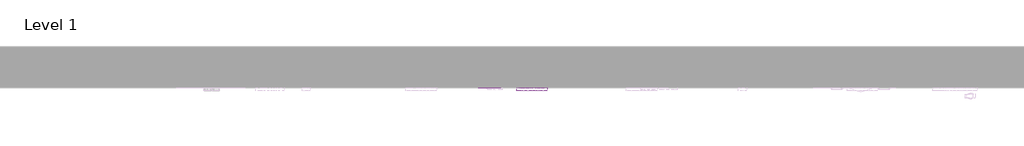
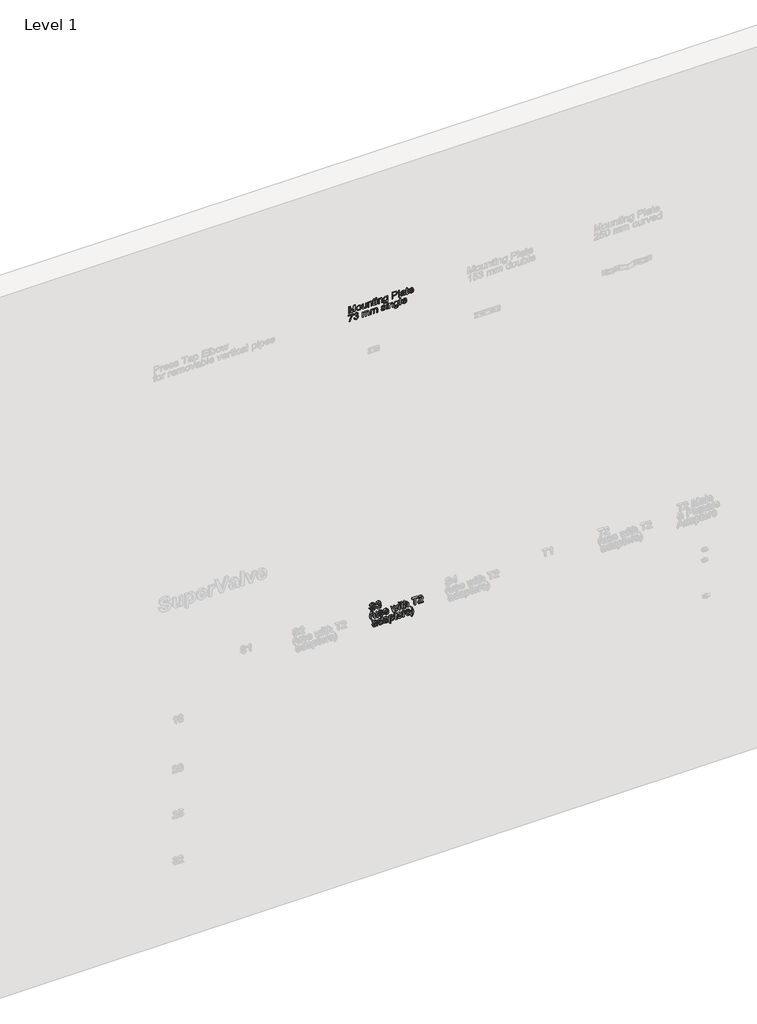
# One storey, part 14 of 57: 2 proxies.
"""IFC4 building model written with IfcOpenShell, lengths in millimetres."""

from ifc_helpers import new_model, si_unit, frame, origin, place, context, project, spatial, polyline, outline, extrude, element, save

model = new_model("IFC4")

# Units and contexts
model_context = context("Model", 3, world=origin())
ifc_project = project(units=[si_unit("LENGTHUNIT", "METRE", prefix="MILLI")], contexts=[model_context])

# Site, building, storey
site = spatial("IfcSite", under=ifc_project)
building = spatial("IfcBuilding", under=site)
storey = spatial("IfcBuildingStorey", under=building, Name="Level 1", Elevation=27.3876384)

# Proxies
placement = place(None, origin())
element("IfcBuildingElementProxy", 1, Name="50mm Arial", ObjectType="50mm Arial", at=placement, inside=storey, context=model_context, shape_type="SweptSolid", body=[
    extrude(outline(polyline([(4250.1944926, 12862.5680848), (4250.1944926, 12868.8466042), (4294.1441282, 12868.8466042), (4250.1944926, 12881.4649567), (4250.1944926, 12889.9752935), (4294.1441282, 12902.5936459), (4250.1944926, 12902.5936459), (4250.1944926, 12908.8721653), (4300.4226476, 12908.8721653), (4300.4226476, 12898.0686974), (4265.6332736, 12887.9642052), (4257.6257089, 12885.7201251), (4265.020137, 12883.6477232), (4300.4226476, 12873.3715528), (4300.4226476, 12862.5680848), (4250.1944926, 12862.5680848)])), frame((0.0, 4542.8703674, 0.0), z_axis=(0.0, 1.0, 0.0), x_axis=(0.0, 0.0, 1.0)), (0.0, 0.0, 1.0), 2.0),
    extrude(outline(polyline([(4268.6376432, 12917.5051295), (4254.3638218, 12922.0607348), (4249.4096776, 12933.9985056), (4251.6598892, 12942.502711), (4257.9813281, 12948.4317425), (4269.152678, 12950.4673562), (4282.8930706, 12945.8626999), (4287.8656089, 12933.9985056), (4283.7821187, 12922.9375203), (4277.5311905, 12918.8632272), (4268.6376432, 12917.5051295)]), holes=[polyline([(4268.649906, 12923.7836488), (4278.368122, 12926.6899166), (4281.5870895, 12933.9985056), (4278.3558593, 12941.264175), (4268.8461097, 12944.1888368), (4258.9378213, 12941.2825691), (4255.688197, 12933.9985056), (4258.9194272, 12926.6899166), (4268.649906, 12923.7836488)])]), frame((0.0, 4542.8703674, 0.0), z_axis=(0.0, 1.0, 0.0), x_axis=(0.0, 0.0, 1.0)), (0.0, 0.0, 1.0), 2.0),
    extrude(outline(polyline([(4250.1944926, 12981.0751382), (4250.1944926, 12987.3536576), (4287.0807939, 12987.3536576), (4287.0807939, 12981.0751382), (4267.8896165, 12981.0751382), (4260.8937272, 12980.0573314), (4257.0861486, 12976.5931093), (4255.688197, 12971.3507908), (4257.0554918, 12966.6725581), (4260.8140195, 12964.1893546), (4267.2151662, 12963.8092099), (4287.0807939, 12963.8092099), (4287.0807939, 12957.5306905), (4264.2598475, 12957.5306905), (4258.4227865, 12957.8985725), (4253.7997361, 12959.7686393), (4250.6604764, 12963.8398668), (4249.4096776, 12969.7443728), (4251.1908396, 12976.1577822), (4256.5343256, 12981.0751382), (4250.1944926, 12981.0751382)])), frame((0.0, 4542.8703674, 0.0), z_axis=(0.0, 1.0, 0.0), x_axis=(0.0, 0.0, 1.0)), (0.0, 0.0, 1.0), 2.0),
    extrude(outline(polyline([(4250.1944926, 12995.9866218), (4250.1944926, 13002.2651411), (4269.7658147, 13002.2651411), (4279.1222801, 13005.1284893), (4281.5870895, 13011.9404376), (4280.4895749, 13016.2507883), (4277.5526503, 13018.8075682), (4271.9976321, 13019.5310695), (4250.1944926, 13019.5310695), (4250.1944926, 13025.8095888), (4272.8437607, 13025.8095888), (4278.9138136, 13025.478495), (4283.5307327, 13023.5961655), (4286.6699924, 13019.5494636), (4287.8656089, 13013.6204321), (4286.3818181, 13007.0660012), (4281.930446, 13002.2651411), (4287.0807939, 13002.2651411), (4287.0807939, 12995.9866218), (4250.1944926, 12995.9866218)])), frame((0.0, 4542.8703674, 0.0), z_axis=(0.0, 1.0, 0.0), x_axis=(0.0, 0.0, 1.0)), (0.0, 0.0, 1.0), 2.0),
    extrude(outline(polyline([(4255.4306796, 13047.7844067), (4255.688197, 13045.0498172), (4257.2578269, 13041.8369811), (4260.4951884, 13041.5058873), (4280.8022746, 13041.5058873), (4280.8022746, 13047.7844067), (4287.0807939, 13047.7844067), (4287.0807939, 13041.5058873), (4299.7359346, 13041.5058873), (4296.0448519, 13035.2273679), (4287.0807939, 13035.2273679), (4287.0807939, 13030.5184784), (4280.8022746, 13030.5184784), (4280.8022746, 13035.2273679), (4260.3112474, 13035.2273679), (4253.1865994, 13035.9876574), (4250.45201, 13038.6118823), (4249.4096776, 13043.8725948), (4250.0105516, 13048.5692216), (4255.4306796, 13047.7844067)])), frame((0.0, 4542.8703674, 0.0), z_axis=(0.0, 1.0, 0.0), x_axis=(0.0, 0.0, 1.0)), (0.0, 0.0, 1.0), 2.0),
    extrude(outline(polyline([(13060.3414455, 4542.8703674), (13054.0629261, 4542.8703674), (13054.0629261, 4544.8703674), (13060.3414455, 4544.8703674), (13060.3414455, 4542.8703674)])), frame((0.0, 0.0, 4294.1441282), z_axis=(0.0, 0.0, 1.0), x_axis=(1.0, 0.0, 0.0)), (0.0, 0.0, 1.0), 6.2785194),
    extrude(outline(polyline([(13060.3414455, 4542.8703674), (13054.0629261, 4542.8703674), (13054.0629261, 4544.8703674), (13060.3414455, 4544.8703674), (13060.3414455, 4542.8703674)])), frame((0.0, 0.0, 4250.1944926), z_axis=(0.0, 0.0, 1.0), x_axis=(1.0, 0.0, 0.0)), (0.0, 0.0, 1.0), 36.8863014),
    extrude(outline(polyline([(4250.1944926, 13069.7592245), (4250.1944926, 13076.0377439), (4269.7658147, 13076.0377439), (4279.1222801, 13078.9010921), (4281.5870895, 13085.7130404), (4280.4895749, 13090.0233911), (4277.5526503, 13092.580171), (4271.9976321, 13093.3036722), (4250.1944926, 13093.3036722), (4250.1944926, 13099.5821916), (4272.8437607, 13099.5821916), (4278.9138136, 13099.2510978), (4283.5307327, 13097.3687683), (4286.6699924, 13093.3220663), (4287.8656089, 13087.3930348), (4286.3818181, 13080.838604), (4281.930446, 13076.0377439), (4287.0807939, 13076.0377439), (4287.0807939, 13069.7592245), (4250.1944926, 13069.7592245)])), frame((0.0, 4542.8703674, 0.0), z_axis=(0.0, 1.0, 0.0), x_axis=(0.0, 0.0, 1.0)), (0.0, 0.0, 1.0), 2.0),
    extrude(outline(polyline([(4247.0552329, 13106.6455259), (4238.2199336, 13110.4898928), (4235.283009, 13120.9316101), (4237.3676737, 13130.0980031), (4243.0391877, 13135.5365253), (4255.2344759, 13137.2533079), (4287.0807939, 13137.2533079), (4287.0807939, 13130.9747885), (4282.3719044, 13130.9747885), (4287.8656089, 13120.8580337), (4285.4375877, 13112.8566003), (4278.552063, 13107.6572014), (4268.8215842, 13105.860711), (4255.6759343, 13109.8644934), (4251.564853, 13114.6914117), (4250.1944926, 13121.164602), (4254.9033821, 13130.9747885), (4247.5825304, 13130.5455929), (4243.143421, 13127.4799096), (4241.5615284, 13121.0542374), (4242.95948, 13114.959659), (4246.2704179, 13112.9240453), (4247.0552329, 13106.6455259)]), holes=[polyline([(4269.2507799, 13112.1392304), (4278.4784866, 13114.8554258), (4281.5870895, 13121.4466449), (4278.4294357, 13128.1788854), (4269.0668389, 13130.9747885), (4259.5141698, 13128.2585931), (4256.4730119, 13121.5447467), (4259.5325639, 13114.8186376), (4269.2507799, 13112.1392304)])]), frame((0.0, 4542.8703674, 0.0), z_axis=(0.0, 1.0, 0.0), x_axis=(0.0, 0.0, 1.0)), (0.0, 0.0, 1.0), 2.0),
    extrude(outline(polyline([(4250.1944926, 13167.076275), (4250.1944926, 13173.3547944), (4270.5996806, 13173.3547944), (4270.5996806, 13186.1202996), (4275.03879, 13200.7068207), (4285.8913088, 13204.7473913), (4292.7400453, 13203.2513378), (4297.5960876, 13199.2966064), (4299.944401, 13193.1958966), (4300.4226476, 13185.6911039), (4300.4226476, 13167.076275), (4250.1944926, 13167.076275)]), holes=[polyline([(4276.8781999, 13173.3547944), (4294.1441282, 13173.3547944), (4294.1441282, 13186.3410288), (4293.7149326, 13192.6195482), (4290.8699785, 13196.8563225), (4285.6705796, 13198.4688719), (4279.1835938, 13195.7342824), (4276.8781999, 13186.4881816), (4276.8781999, 13173.3547944)])]), frame((0.0, 4542.8703674, 0.0), z_axis=(0.0, 1.0, 0.0), x_axis=(0.0, 0.0, 1.0)), (0.0, 0.0, 1.0), 2.0),
    extrude(outline(polyline([(13218.8740599, 4542.8703674), (13212.5955405, 4542.8703674), (13212.5955405, 4544.8703674), (13218.8740599, 4544.8703674), (13218.8740599, 4542.8703674)])), frame((0.0, 0.0, 4250.1944926), z_axis=(0.0, 0.0, 1.0), x_axis=(1.0, 0.0, 0.0)), (0.0, 0.0, 1.0), 50.2281551),
    extrude(outline(polyline([(4254.9033821, 13251.8362867), (4250.1944926, 13253.4059165), (4250.1944926, 13259.6844359), (4255.4735992, 13258.4336371), (4266.3813003, 13258.1148061), (4274.1926614, 13258.1148061), (4279.6863658, 13257.8082377), (4283.9476656, 13255.8829886), (4286.7497001, 13251.5849006), (4287.8656089, 13243.9758747), (4286.6025473, 13235.6923985), (4283.0095665, 13230.2232195), (4276.8781999, 13227.5070241), (4276.093385, 13233.7855434), (4280.3792103, 13236.8144385), (4281.5870895, 13243.1665343), (4279.772205, 13250.1072413), (4273.7389402, 13251.7994985), (4271.5806992, 13240.9101914), (4270.6364688, 13235.4778006), (4268.5763296, 13231.0816108), (4264.971086, 13227.923957), (4260.0046791, 13226.7222091), (4252.3895218, 13229.9043884), (4249.4096776, 13239.0217305), (4250.6482137, 13245.7478397), (4254.9033821, 13251.8362867)]), holes=[polyline([(4267.4604209, 13251.8362867), (4265.6823246, 13251.7994985), (4260.8262822, 13250.8062171), (4257.1903818, 13246.7104642), (4255.688197, 13240.3583684), (4257.0493604, 13234.8707953), (4260.4461375, 13233.0007285), (4262.8618959, 13233.8591198), (4264.5173649, 13236.3055351), (4265.5351718, 13241.7072691), (4267.4604209, 13251.8362867)])]), frame((0.0, 4542.8703674, 0.0), z_axis=(0.0, 1.0, 0.0), x_axis=(0.0, 0.0, 1.0)), (0.0, 0.0, 1.0), 2.0),
    extrude(outline(polyline([(4255.4306796, 13280.0896239), (4255.688197, 13277.3550344), (4257.2578269, 13274.1421983), (4260.4951884, 13273.8111045), (4280.8022746, 13273.8111045), (4280.8022746, 13280.0896239), (4287.0807939, 13280.0896239), (4287.0807939, 13273.8111045), (4299.7359346, 13273.8111045), (4296.0448519, 13267.5325851), (4287.0807939, 13267.5325851), (4287.0807939, 13262.8236956), (4280.8022746, 13262.8236956), (4280.8022746, 13267.5325851), (4260.3112474, 13267.5325851), (4253.1865994, 13268.2928746), (4250.45201, 13270.9170995), (4249.4096776, 13276.177812), (4250.0105516, 13280.8744388), (4255.4306796, 13280.0896239)])), frame((0.0, 4542.8703674, 0.0), z_axis=(0.0, 1.0, 0.0), x_axis=(0.0, 0.0, 1.0)), (0.0, 0.0, 1.0), 2.0),
    extrude(outline(polyline([(4261.1819015, 13312.1934594), (4257.0003095, 13308.1467574), (4255.688197, 13301.9908654), (4258.5208884, 13293.9035928), (4266.6756059, 13290.2922179), (4266.6756059, 13318.5087669), (4268.3678631, 13318.5455551), (4282.7520491, 13313.7814833), (4287.8656089, 13301.5126188), (4282.7397864, 13288.8820036), (4268.3310749, 13284.0136985), (4254.3822159, 13288.8329527), (4249.4096776, 13301.868238), (4252.2914199, 13312.5919982), (4260.3970866, 13318.3493514), (4261.1819015, 13312.1934594)]), holes=[polyline([(4272.9541253, 13290.2922179), (4279.2387761, 13293.75644), (4281.5870895, 13301.4880933), (4278.6440335, 13309.7531754), (4272.9541253, 13312.2670357), (4272.9541253, 13290.2922179)])]), frame((0.0, 4542.8703674, 0.0), z_axis=(0.0, 1.0, 0.0), x_axis=(0.0, 0.0, 1.0)), (0.0, 0.0, 1.0), 2.0),
    extrude(outline(polyline([(4232.3719044, 12860.2136401), (4232.3719044, 12886.8973475), (4219.3795386, 12877.405992), (4203.3705404, 12870.5572555), (4189.2070836, 12868.0617893), (4189.2070836, 12874.3403087), (4202.8555057, 12876.670228), (4220.0662517, 12883.8255328), (4233.5736522, 12893.1758668), (4238.6504238, 12893.1758668), (4238.6504238, 12860.2136401), (4232.3719044, 12860.2136401)])), frame((0.0, 4542.8703674, 0.0), z_axis=(0.0, 1.0, 0.0), x_axis=(0.0, 0.0, 1.0)), (0.0, 0.0, 1.0), 2.0),
    extrude(outline(polyline([(4202.5489373, 12898.6695713), (4192.3586061, 12903.6605037), (4188.4222687, 12914.6724381), (4193.0330564, 12926.8248067), (4204.26572, 12931.6317981), (4212.4327003, 12929.2283024), (4216.7246569, 12922.3856973), (4220.8817234, 12927.5360452), (4226.6697335, 12929.2773533), (4233.0034352, 12927.4440747), (4237.7123247, 12922.146574), (4239.4352387, 12914.5743362), (4235.9403598, 12904.5924714), (4226.093385, 12899.4543862), (4225.3085701, 12905.7329056), (4231.194682, 12908.8108516), (4233.1567193, 12914.7950654), (4231.2130761, 12920.7057028), (4226.3018515, 12922.9988339), (4220.7590961, 12919.8350488), (4219.0300507, 12911.7048567), (4212.7515313, 12911.0058809), (4213.4382444, 12915.4082021), (4210.8692018, 12922.5451128), (4204.3760846, 12925.3532787), (4197.4844285, 12922.5205873), (4194.7007881, 12914.8931673), (4196.7241391, 12908.4123128), (4203.3337522, 12904.9480907), (4202.5489373, 12898.6695713)])), frame((0.0, 4542.8703674, 0.0), z_axis=(0.0, 1.0, 0.0), x_axis=(0.0, 0.0, 1.0)), (0.0, 0.0, 1.0), 2.0),
    extrude(outline(polyline([(4189.2070836, 12958.3155055), (4189.2070836, 12964.5940248), (4207.8096499, 12964.5940248), (4215.3021798, 12965.550518), (4219.2507799, 12968.6407268), (4220.5996806, 12973.2883027), (4218.5763296, 12978.0523745), (4212.4940139, 12979.5055084), (4189.2070836, 12979.5055084), (4189.2070836, 12985.7840278), (4210.0292046, 12985.7840278), (4218.0858203, 12988.2427058), (4220.5996806, 12994.4169919), (4219.6186619, 12998.0038414), (4217.0373566, 13000.1130315), (4211.7950381, 13000.6955113), (4189.2070836, 13000.6955113), (4189.2070836, 13006.9740307), (4214.4928394, 13006.9740307), (4223.8431735, 13004.0984198), (4226.8781999, 12995.8885199), (4225.0541184, 12989.701971), (4219.5818737, 12984.8030091), (4224.9590822, 12981.3449184), (4226.8781999, 12975.0541362), (4224.9958704, 12968.9105069), (4220.0233321, 12964.5940248), (4226.093385, 12964.5940248), (4226.093385, 12958.3155055), (4189.2070836, 12958.3155055)])), frame((0.0, 4542.8703674, 0.0), z_axis=(0.0, 1.0, 0.0), x_axis=(0.0, 0.0, 1.0)), (0.0, 0.0, 1.0), 2.0),
    extrude(outline(polyline([(4189.2070836, 13016.3918098), (4189.2070836, 13022.6703291), (4207.8096499, 13022.6703291), (4215.3021798, 13023.6268223), (4219.2507799, 13026.7170311), (4220.5996806, 13031.364607), (4218.5763296, 13036.1286788), (4212.4940139, 13037.5818127), (4189.2070836, 13037.5818127), (4189.2070836, 13043.8603321), (4210.0292046, 13043.8603321), (4218.0858203, 13046.3190101), (4220.5996806, 13052.4932962), (4219.6186619, 13056.0801457), (4217.0373566, 13058.1893358), (4211.7950381, 13058.7718156), (4189.2070836, 13058.7718156), (4189.2070836, 13065.050335), (4214.4928394, 13065.050335), (4223.8431735, 13062.1747241), (4226.8781999, 13053.9648242), (4225.0541184, 13047.7782753), (4219.5818737, 13042.8793134), (4224.9590822, 13039.4212227), (4226.8781999, 13033.1304405), (4224.9958704, 13026.9868112), (4220.0233321, 13022.6703291), (4226.093385, 13022.6703291), (4226.093385, 13016.3918098), (4189.2070836, 13016.3918098)])), frame((0.0, 4542.8703674, 0.0), z_axis=(0.0, 1.0, 0.0), x_axis=(0.0, 0.0, 1.0)), (0.0, 0.0, 1.0), 2.0),
    extrude(outline(polyline([(4200.1944926, 13091.7340424), (4191.3898501, 13096.5410338), (4188.4222687, 13107.4916545), (4189.9612417, 13115.2662273), (4194.3206434, 13120.5208085), (4200.3293826, 13122.3418244), (4205.7862989, 13120.7905886), (4209.134025, 13116.5108947), (4212.0893437, 13107.2954508), (4213.4259816, 13101.8875854), (4214.8116705, 13099.5454034), (4216.6388177, 13098.7973767), (4219.4101954, 13100.5999985), (4220.5996806, 13106.6087377), (4219.3550131, 13112.133099), (4215.890791, 13114.4936751), (4216.6756059, 13120.7721945), (4222.3103318, 13118.6139535), (4225.6457953, 13113.7579112), (4226.8781999, 13106.1182284), (4226.1117791, 13100.7164944), (4224.253975, 13096.7249748), (4220.6793883, 13093.6470287), (4216.0011556, 13092.5188573), (4210.9366468, 13093.9229402), (4207.3497974, 13098.04935), (4204.2779827, 13107.5039172), (4202.4876237, 13113.9663776), (4199.667195, 13116.063305), (4196.1845788, 13113.9786403), (4194.7007881, 13107.5774936), (4196.3194689, 13100.9188295), (4200.9793075, 13098.0125618), (4200.1944926, 13091.7340424)])), frame((0.0, 4542.8703674, 0.0), z_axis=(0.0, 1.0, 0.0), x_axis=(0.0, 0.0, 1.0)), (0.0, 0.0, 1.0), 2.0),
    extrude(outline(polyline([(13135.6836781, 4542.8703674), (13129.4051587, 4542.8703674), (13129.4051587, 4544.8703674), (13135.6836781, 4544.8703674), (13135.6836781, 4542.8703674)])), frame((0.0, 0.0, 4189.2070836), z_axis=(0.0, 0.0, 1.0), x_axis=(1.0, 0.0, 0.0)), (0.0, 0.0, 1.0), 36.8863014),
    extrude(outline(polyline([(13135.6836781, 4542.8703674), (13129.4051587, 4542.8703674), (13129.4051587, 4544.8703674), (13135.6836781, 4544.8703674), (13135.6836781, 4542.8703674)])), frame((0.0, 0.0, 4233.1567193), z_axis=(0.0, 0.0, 1.0), x_axis=(1.0, 0.0, 0.0)), (0.0, 0.0, 1.0), 6.2785194),
    extrude(outline(polyline([(4189.2070836, 13145.1014571), (4189.2070836, 13151.3799765), (4208.7784058, 13151.3799765), (4218.1348712, 13154.2433247), (4220.5996806, 13161.055273), (4219.5021659, 13165.3656237), (4216.5652413, 13167.9224036), (4211.0102232, 13168.6459048), (4189.2070836, 13168.6459048), (4189.2070836, 13174.9244242), (4211.8563518, 13174.9244242), (4217.9264047, 13174.5933304), (4222.5433238, 13172.7110009), (4225.6825835, 13168.6642989), (4226.8781999, 13162.7352674), (4225.3944092, 13156.1808366), (4220.9430371, 13151.3799765), (4226.093385, 13151.3799765), (4226.093385, 13145.1014571), (4189.2070836, 13145.1014571)])), frame((0.0, 4542.8703674, 0.0), z_axis=(0.0, 1.0, 0.0), x_axis=(0.0, 0.0, 1.0)), (0.0, 0.0, 1.0), 2.0),
    extrude(outline(polyline([(4186.0678239, 13181.9877585), (4177.2325247, 13185.8321254), (4174.2956001, 13196.2738427), (4176.3802647, 13205.4402357), (4182.0517788, 13210.8787579), (4194.247067, 13212.5955405), (4226.093385, 13212.5955405), (4226.093385, 13206.3170211), (4221.3844955, 13206.3170211), (4226.8781999, 13196.2002663), (4224.4501788, 13188.1988329), (4217.5646541, 13182.999434), (4207.8341753, 13181.2029436), (4194.6885254, 13185.206726), (4190.5774441, 13190.0336443), (4189.2070836, 13196.5068346), (4193.9159732, 13206.3170211), (4186.5951215, 13205.8878255), (4182.1560121, 13202.8221422), (4180.5741195, 13196.39647), (4181.9720711, 13190.3018916), (4185.283009, 13188.2662779), (4186.0678239, 13181.9877585)]), holes=[polyline([(4208.263371, 13187.481463), (4217.4910777, 13190.1976584), (4220.5996806, 13196.7888775), (4217.4420268, 13203.521118), (4208.07943, 13206.3170211), (4198.5267608, 13203.6008257), (4195.485603, 13196.8869793), (4198.5451549, 13190.1608702), (4208.263371, 13187.481463)])]), frame((0.0, 4542.8703674, 0.0), z_axis=(0.0, 1.0, 0.0), x_axis=(0.0, 0.0, 1.0)), (0.0, 0.0, 1.0), 2.0),
    extrude(outline(polyline([(13228.291839, 4542.8703674), (13222.0133196, 4542.8703674), (13222.0133196, 4544.8703674), (13228.291839, 4544.8703674), (13228.291839, 4542.8703674)])), frame((0.0, 0.0, 4189.2070836), z_axis=(0.0, 0.0, 1.0), x_axis=(1.0, 0.0, 0.0)), (0.0, 0.0, 1.0), 50.2281551),
    extrude(outline(polyline([(4200.1944926, 13263.5349341), (4196.0129005, 13259.4882322), (4194.7007881, 13253.3323401), (4197.5334795, 13245.2450676), (4205.688197, 13241.6336927), (4205.688197, 13269.8502417), (4207.3804542, 13269.8870299), (4221.7646402, 13265.1229581), (4226.8781999, 13252.8540935), (4221.7523775, 13240.2234784), (4207.343666, 13235.3551733), (4193.394807, 13240.1744274), (4188.4222687, 13253.2097128), (4191.304011, 13263.9334729), (4199.4096776, 13269.6908262), (4200.1944926, 13263.5349341)]), holes=[polyline([(4211.9667164, 13241.6336927), (4218.2513672, 13245.0979148), (4220.5996806, 13252.8295681), (4217.6566246, 13261.0946502), (4211.9667164, 13263.6085105), (4211.9667164, 13241.6336927)])]), frame((0.0, 4542.8703674, 0.0), z_axis=(0.0, 1.0, 0.0), x_axis=(0.0, 0.0, 1.0)), (0.0, 0.0, 1.0), 2.0),
])
element("IfcBuildingElementProxy", 2, Name="50mm Arial", ObjectType="50mm Arial", at=placement, inside=storey, context=model_context, shape_type="SweptSolid", body=[
    extrude(outline(polyline([(2015.6299548, 13006.1285645), (2006.0404975, 13008.8386285), (1999.6884017, 13015.9326197), (1997.5792116, 13027.1468892), (1999.5351175, 13036.644376), (2005.0165593, 13043.1190991), (2012.5274833, 13045.3693107), (2019.6276058, 13043.4134047), (2024.7166401, 13037.3372204), (2027.8681625, 13026.2271842), (2031.3753042, 13015.9755392), (2035.7285745, 13013.9767137), (2040.9402361, 13016.7971424), (2043.0984771, 13025.7857258), (2040.9157106, 13034.7497837), (2034.465513, 13038.3059763), (2034.465513, 13044.5844957), (2042.3259249, 13042.0951609), (2047.5866375, 13035.473285), (2049.3769965, 13025.5404711), (2047.6663452, 13016.2330566), (2042.6508874, 13009.8748295), (2035.5446335, 13007.6981943), (2029.3029023, 13009.4578966), (2024.630801, 13014.7983169), (2021.5344608, 13024.6391602), (2019.1370965, 13033.7810278), (2016.286011, 13038.0484589), (2012.3680678, 13039.0907913), (2008.1558189, 13037.6989711), (2005.0042965, 13033.4621967), (2003.857731, 13026.9016345), (2005.3721785, 13019.3723163), (2009.3453041, 13014.4304349), (2015.6299548, 13012.4070839), (2015.6299548, 13006.1285645)])), frame((0.0, 4529.8703674, 0.0), z_axis=(0.0, 1.0, 0.0), x_axis=(0.0, 0.0, 1.0)), (0.0, 0.0, 1.0), 15.0),
    extrude(outline(polyline([(2011.7058802, 13052.432645), (2001.5155489, 13057.4235774), (1997.5792116, 13068.4355118), (2002.1899993, 13080.5878803), (2013.4226628, 13085.3948717), (2021.5896431, 13082.991376), (2025.8815997, 13076.1487709), (2030.0386663, 13081.2991188), (2035.8266763, 13083.040427), (2042.160378, 13081.2071483), (2046.8692676, 13075.9096476), (2048.5921816, 13068.3374099), (2045.0973026, 13058.3555451), (2035.2503279, 13053.2174599), (2034.465513, 13059.4959793), (2040.3516249, 13062.5739253), (2042.3136622, 13068.5581391), (2040.370019, 13074.4687765), (2035.4587944, 13076.7619076), (2029.916039, 13073.5981224), (2028.1869936, 13065.4679303), (2021.9084742, 13064.7689545), (2022.5951873, 13069.1712757), (2020.0261447, 13076.3081864), (2013.5330274, 13079.1163523), (2006.6413714, 13076.283661), (2003.857731, 13068.6562409), (2005.8810819, 13062.1753865), (2012.4906951, 13058.7111643), (2011.7058802, 13052.432645)])), frame((0.0, 4529.8703674, 0.0), z_axis=(0.0, 1.0, 0.0), x_axis=(0.0, 0.0, 1.0)), (0.0, 0.0, 1.0), 15.0),
    extrude(outline(polyline([(1923.249949, 13020.2552331), (1923.249949, 13024.9641227), (1939.3325235, 13016.723566), (1955.4273608, 13013.9767137), (1968.0211878, 13015.5586063), (1977.6596961, 13019.0902735), (1987.6047727, 13024.9641227), (1987.6047727, 13020.2552331), (1970.7312518, 13010.4205211), (1955.464149, 13007.6981943), (1937.9774915, 13011.3402261), (1923.249949, 13020.2552331)])), frame((0.0, 4529.8703674, 0.0), z_axis=(0.0, 1.0, 0.0), x_axis=(0.0, 0.0, 1.0)), (0.0, 0.0, 1.0), 15.0),
    extrude(outline(polyline([(1937.3766176, 13054.7870897), (1937.3766176, 13061.0656091), (1974.262919, 13061.0656091), (1974.262919, 13054.7870897), (1955.0717416, 13054.7870897), (1948.0758523, 13053.7692829), (1944.2682736, 13050.3050608), (1942.870322, 13045.0627423), (1944.2376168, 13040.3845096), (1947.9961445, 13037.9013062), (1954.3972912, 13037.5211614), (1974.262919, 13037.5211614), (1974.262919, 13031.242642), (1951.4419725, 13031.242642), (1945.6049115, 13031.610524), (1940.9818611, 13033.4805908), (1937.8426014, 13037.5518183), (1936.5918027, 13043.4563243), (1938.3729647, 13049.8697337), (1943.7164506, 13054.7870897), (1937.3766176, 13054.7870897)])), frame((0.0, 4529.8703674, 0.0), z_axis=(0.0, 1.0, 0.0), x_axis=(0.0, 0.0, 1.0)), (0.0, 0.0, 1.0), 15.0),
    extrude(outline(polyline([(1948.3640265, 13067.3441285), (1939.5593841, 13072.1511199), (1936.5918027, 13083.1017406), (1938.1307757, 13090.8763135), (1942.4901773, 13096.1308946), (1948.4989166, 13097.9519105), (1953.9558328, 13096.4006748), (1957.303559, 13092.1209809), (1960.2588777, 13082.9055369), (1961.5955156, 13077.4976716), (1962.9812044, 13075.1554895), (1964.8083517, 13074.4074628), (1967.5797294, 13076.2100846), (1968.7692145, 13082.2188238), (1967.5245471, 13087.7431851), (1964.060325, 13090.1037613), (1964.8451399, 13096.3822807), (1970.4798658, 13094.2240396), (1973.8153292, 13089.3679973), (1975.0477339, 13081.7283145), (1974.2813131, 13076.3265805), (1972.423509, 13072.3350609), (1968.8489223, 13069.2571149), (1964.1706896, 13068.1289434), (1959.1061808, 13069.5330264), (1955.5193313, 13073.6594361), (1952.4475167, 13083.1140034), (1950.6571576, 13089.5764637), (1947.836729, 13091.6733911), (1944.3541128, 13089.5887265), (1942.870322, 13083.1875798), (1944.4890028, 13076.5289156), (1949.1488414, 13073.6226479), (1948.3640265, 13067.3441285)])), frame((0.0, 4529.8703674, 0.0), z_axis=(0.0, 1.0, 0.0), x_axis=(0.0, 0.0, 1.0)), (0.0, 0.0, 1.0), 15.0),
    extrude(outline(polyline([(1948.3640265, 13130.8405609), (1944.1824345, 13126.7938589), (1942.870322, 13120.6379669), (1945.7030134, 13112.5506943), (1953.857731, 13108.9393194), (1953.857731, 13137.1558684), (1955.5499881, 13137.1926566), (1969.9341742, 13132.4285848), (1975.0477339, 13120.1597203), (1969.9219114, 13107.5291051), (1955.5131999, 13102.6608), (1941.564341, 13107.4800542), (1936.5918027, 13120.5153395), (1939.473545, 13131.2390997), (1947.5792116, 13136.9964529), (1948.3640265, 13130.8405609)]), holes=[polyline([(1960.1362504, 13108.9393194), (1966.4209011, 13112.4035415), (1968.7692145, 13120.1351948), (1965.8261585, 13128.400277), (1960.1362504, 13130.9141373), (1960.1362504, 13108.9393194)])]), frame((0.0, 4529.8703674, 0.0), z_axis=(0.0, 1.0, 0.0), x_axis=(0.0, 0.0, 1.0)), (0.0, 0.0, 1.0), 15.0),
    extrude(outline(polyline([(1937.3766176, 13169.210653), (1937.3766176, 13176.8871239), (1965.7525821, 13183.1043296), (1959.0080789, 13184.5022812), (1937.3766176, 13189.3215354), (1937.3766176, 13196.9121672), (1974.262919, 13208.2184072), (1974.262919, 13201.6701077), (1952.888975, 13195.2934864), (1945.813378, 13193.3069236), (1952.5210931, 13191.9212348), (1974.262919, 13186.8812515), (1974.262919, 13179.4009842), (1952.4597794, 13174.3364754), (1945.0530886, 13172.7791083), (1952.7418222, 13170.8783847), (1974.262919, 13164.5140262), (1974.262919, 13157.9902521), (1937.3766176, 13169.210653)])), frame((0.0, 4529.8703674, 0.0), z_axis=(0.0, 1.0, 0.0), x_axis=(0.0, 0.0, 1.0)), (0.0, 0.0, 1.0), 15.0),
    extrude(outline(polyline([(13218.8134086, 4529.8703674), (13212.5348893, 4529.8703674), (13212.5348893, 4544.8703674), (13218.8134086, 4544.8703674), (13218.8134086, 4529.8703674)])), frame((0.0, 0.0, 1981.3262533), z_axis=(0.0, 0.0, 1.0), x_axis=(1.0, 0.0, 0.0)), (0.0, 0.0, 1.0), 6.2785194),
    extrude(outline(polyline([(13218.8134086, 4529.8703674), (13212.5348893, 4529.8703674), (13212.5348893, 4544.8703674), (13218.8134086, 4544.8703674), (13218.8134086, 4529.8703674)])), frame((0.0, 0.0, 1937.3766176), z_axis=(0.0, 0.0, 1.0), x_axis=(1.0, 0.0, 0.0)), (0.0, 0.0, 1.0), 36.8863014),
    extrude(outline(polyline([(1942.6128046, 13241.5730414), (1942.870322, 13238.8384519), (1944.4399519, 13235.6256158), (1947.6773134, 13235.294522), (1967.9843996, 13235.294522), (1967.9843996, 13241.5730414), (1974.262919, 13241.5730414), (1974.262919, 13235.294522), (1986.9180596, 13235.294522), (1983.2269769, 13229.0160026), (1974.262919, 13229.0160026), (1974.262919, 13224.3071131), (1967.9843996, 13224.3071131), (1967.9843996, 13229.0160026), (1947.4933725, 13229.0160026), (1940.3687245, 13229.7762921), (1937.634135, 13232.400517), (1936.5918027, 13237.6612295), (1937.1926766, 13242.3578563), (1942.6128046, 13241.5730414)])), frame((0.0, 4529.8703674, 0.0), z_axis=(0.0, 1.0, 0.0), x_axis=(0.0, 0.0, 1.0)), (0.0, 0.0, 1.0), 15.0),
    extrude(outline(polyline([(1937.3766176, 13247.8515608), (1937.3766176, 13254.1300802), (1956.9724652, 13254.1300802), (1963.5820784, 13255.1540184), (1967.3712629, 13258.5875837), (1968.7692145, 13263.7318003), (1966.6968126, 13269.397183), (1960.0749367, 13271.3960085), (1937.3766176, 13271.3960085), (1937.3766176, 13277.6745279), (1960.7248615, 13277.6745279), (1968.977681, 13276.3869409), (1973.4351845, 13272.107247), (1975.0477339, 13265.0561754), (1969.1370965, 13254.1300802), (1987.6047727, 13254.1300802), (1987.6047727, 13247.8515608), (1937.3766176, 13247.8515608)])), frame((0.0, 4529.8703674, 0.0), z_axis=(0.0, 1.0, 0.0), x_axis=(0.0, 0.0, 1.0)), (0.0, 0.0, 1.0), 15.0),
    extrude(outline(polyline([(1937.3766176, 13319.2697188), (1937.3766176, 13325.5482382), (1981.3262533, 13325.5482382), (1981.3262533, 13342.0293516), (1987.6047727, 13342.0293516), (1987.6047727, 13302.7886054), (1981.3262533, 13302.7886054), (1981.3262533, 13319.2697188), (1937.3766176, 13319.2697188)])), frame((0.0, 4529.8703674, 0.0), z_axis=(0.0, 1.0, 0.0), x_axis=(0.0, 0.0, 1.0)), (0.0, 0.0, 1.0), 15.0),
    extrude(outline(polyline([(1943.655137, 13378.9156529), (1943.655137, 13354.2552965), (1946.849579, 13357.0879879), (1952.888975, 13364.3107377), (1961.4912824, 13373.3054525), (1967.6471744, 13377.0149293), (1973.6007314, 13378.130838), (1983.5825962, 13373.9921656), (1987.6047727, 13362.7533706), (1983.9872664, 13351.5513639), (1973.478104, 13346.7382411), (1972.6932891, 13353.0167605), (1979.0331222, 13355.6593795), (1981.3262533, 13362.6184806), (1978.9779399, 13369.2955388), (1973.2205866, 13371.8523186), (1966.1082014, 13369.1422546), (1955.64809, 13358.3019985), (1948.3701579, 13350.4415865), (1941.7053624, 13346.6278765), (1937.3766176, 13345.9534262), (1937.3766176, 13378.9156529), (1943.655137, 13378.9156529)])), frame((0.0, 4529.8703674, 0.0), z_axis=(0.0, 1.0, 0.0), x_axis=(0.0, 0.0, 1.0)), (0.0, 0.0, 1.0), 15.0),
    extrude(outline(polyline([(1881.0980982, 13050.8630151), (1876.3892087, 13052.432645), (1876.3892087, 13058.7111643), (1881.6683153, 13057.4603656), (1892.5760164, 13057.1415345), (1900.3873775, 13057.1415345), (1905.8810819, 13056.8349662), (1910.1423817, 13054.9097171), (1912.9444162, 13050.6116291), (1914.060325, 13043.0026032), (1912.7972635, 13034.7191269), (1909.2042826, 13029.2499479), (1903.072916, 13026.5337525), (1902.2881011, 13032.8122719), (1906.5739264, 13035.841167), (1907.7818056, 13042.1932628), (1905.9669211, 13049.1339697), (1899.9336564, 13050.8262269), (1897.7754153, 13039.9369199), (1896.8311849, 13034.5045291), (1894.7710457, 13030.1083392), (1891.1658021, 13026.9506854), (1886.1993952, 13025.7489376), (1878.5842379, 13028.9311168), (1875.6043937, 13038.0484589), (1876.8429298, 13044.7745681), (1881.0980982, 13050.8630151)]), holes=[polyline([(1893.655137, 13050.8630151), (1891.8770407, 13050.8262269), (1887.0209983, 13049.8329455), (1883.3850979, 13045.7371926), (1881.8829131, 13039.3850969), (1883.2440765, 13033.8975238), (1886.6408536, 13032.027457), (1889.056612, 13032.8858483), (1890.712081, 13035.3322636), (1891.7298879, 13040.7339975), (1893.655137, 13050.8630151)])]), frame((0.0, 4529.8703674, 0.0), z_axis=(0.0, 1.0, 0.0), x_axis=(0.0, 0.0, 1.0)), (0.0, 0.0, 1.0), 15.0),
    extrude(outline(polyline([(1876.3892087, 13088.5341314), (1876.3892087, 13094.8126508), (1926.6173637, 13094.8126508), (1926.6173637, 13088.5341314), (1907.9044329, 13088.5341314), (1912.3496737, 13084.4015903), (1914.060325, 13078.6135803), (1911.669092, 13070.5998842), (1904.7896987, 13065.2165443), (1894.7955712, 13063.4200539), (1884.807575, 13065.3698285), (1878.0324149, 13070.8635329), (1875.6043937, 13078.6381057), (1877.2813225, 13084.3801306), (1882.3121088, 13088.5341314), (1876.3892087, 13088.5341314)]), holes=[polyline([(1894.8200966, 13069.6985733), (1904.66094, 13072.3473236), (1907.7818056, 13078.9569368), (1904.5321813, 13085.7688851), (1894.34185, 13088.5341314), (1884.9547278, 13085.817936), (1881.8829131, 13079.2144542), (1885.1018806, 13072.5312646), (1894.8200966, 13069.6985733)])]), frame((0.0, 4529.8703674, 0.0), z_axis=(0.0, 1.0, 0.0), x_axis=(0.0, 0.0, 1.0)), (0.0, 0.0, 1.0), 15.0),
    extrude(outline(polyline([(1881.0980982, 13127.7748776), (1876.3892087, 13129.3445074), (1876.3892087, 13135.6230268), (1881.6683153, 13134.372228), (1892.5760164, 13134.053397), (1900.3873775, 13134.053397), (1905.8810819, 13133.7468286), (1910.1423817, 13131.8215795), (1912.9444162, 13127.5234915), (1914.060325, 13119.9144656), (1912.7972635, 13111.6309894), (1909.2042826, 13106.1618104), (1903.072916, 13103.445615), (1902.2881011, 13109.7241343), (1906.5739264, 13112.7530294), (1907.7818056, 13119.1051252), (1905.9669211, 13126.0458322), (1899.9336564, 13127.7380894), (1897.7754153, 13116.8487823), (1896.8311849, 13111.4163915), (1894.7710457, 13107.0202017), (1891.1658021, 13103.8625479), (1886.1993952, 13102.6608), (1878.5842379, 13105.8429793), (1875.6043937, 13114.9603214), (1876.8429298, 13121.6864306), (1881.0980982, 13127.7748776)]), holes=[polyline([(1893.655137, 13127.7748776), (1891.8770407, 13127.7380894), (1887.0209983, 13126.744808), (1883.3850979, 13122.6490551), (1881.8829131, 13116.2969593), (1883.2440765, 13110.8093862), (1886.6408536, 13108.9393194), (1889.056612, 13109.7977107), (1890.712081, 13112.244126), (1891.7298879, 13117.64586), (1893.655137, 13127.7748776)])]), frame((0.0, 4529.8703674, 0.0), z_axis=(0.0, 1.0, 0.0), x_axis=(0.0, 0.0, 1.0)), (0.0, 0.0, 1.0), 15.0),
    extrude(outline(polyline([(1862.26254, 13142.6863611), (1862.26254, 13148.9648805), (1881.2943019, 13148.9648805), (1877.2169432, 13152.9441374), (1875.6043937, 13158.407185), (1878.0140208, 13166.3473048), (1884.942465, 13172.0985266), (1895.1144022, 13174.078958), (1904.7896987, 13172.3253872), (1911.6323038, 13167.1259883), (1914.060325, 13159.1674745), (1912.3251482, 13153.305888), (1907.119618, 13148.9648805), (1913.27551, 13148.9648805), (1913.27551, 13142.6863611), (1862.26254, 13142.6863611)]), holes=[polyline([(1894.5380538, 13148.9648805), (1904.3911599, 13151.8650169), (1907.7818056, 13158.5298124), (1904.593495, 13165.0658491), (1895.0040376, 13167.8004386), (1885.0834865, 13164.9984041), (1881.8829131, 13158.272295), (1884.9731219, 13151.6810759), (1894.5380538, 13148.9648805)])]), frame((0.0, 4529.8703674, 0.0), z_axis=(0.0, 1.0, 0.0), x_axis=(0.0, 0.0, 1.0)), (0.0, 0.0, 1.0), 15.0),
    extrude(outline(polyline([(1881.6253957, 13194.484146), (1881.8829131, 13191.7495565), (1883.452543, 13188.5367204), (1886.6899045, 13188.2056266), (1906.9969907, 13188.2056266), (1906.9969907, 13194.484146), (1913.27551, 13194.484146), (1913.27551, 13188.2056266), (1925.9306507, 13188.2056266), (1922.239568, 13181.9271073), (1913.27551, 13181.9271073), (1913.27551, 13177.2182177), (1906.9969907, 13177.2182177), (1906.9969907, 13181.9271073), (1886.5059635, 13181.9271073), (1879.3813156, 13182.6873967), (1876.6467261, 13185.3116216), (1875.6043937, 13190.5723341), (1876.2052677, 13195.268961), (1881.6253957, 13194.484146)])), frame((0.0, 4529.8703674, 0.0), z_axis=(0.0, 1.0, 0.0), x_axis=(0.0, 0.0, 1.0)), (0.0, 0.0, 1.0), 15.0),
    extrude(outline(polyline([(1887.3766176, 13226.5879815), (1883.1950256, 13222.5412795), (1881.8829131, 13216.3853875), (1884.7156045, 13208.2981149), (1892.870322, 13204.68674), (1892.870322, 13232.9032891), (1894.5625792, 13232.9400773), (1908.9467652, 13228.1760054), (1914.060325, 13215.9071409), (1908.9345025, 13203.2765257), (1894.525791, 13198.4082206), (1880.576932, 13203.2274748), (1875.6043937, 13216.2627601), (1878.486136, 13226.9865203), (1886.5918027, 13232.7438735), (1887.3766176, 13226.5879815)]), holes=[polyline([(1899.1488414, 13204.68674), (1905.4334922, 13208.1509622), (1907.7818056, 13215.8826154), (1904.8387496, 13224.1476976), (1899.1488414, 13226.6615579), (1899.1488414, 13204.68674)])]), frame((0.0, 4529.8703674, 0.0), z_axis=(0.0, 1.0, 0.0), x_axis=(0.0, 0.0, 1.0)), (0.0, 0.0, 1.0), 15.0),
    extrude(outline(polyline([(1876.3892087, 13239.2185966), (1876.3892087, 13245.497116), (1895.7765898, 13245.497116), (1903.1097042, 13246.5149229), (1906.5432695, 13248.7773972), (1907.7818056, 13252.3274584), (1906.4942186, 13256.7420423), (1912.1228131, 13258.8389697), (1914.060325, 13252.5359249), (1912.8463144, 13248.6118503), (1907.8185938, 13244.7123011), (1913.27551, 13244.7123011), (1913.27551, 13239.2185966), (1876.3892087, 13239.2185966)])), frame((0.0, 4529.8703674, 0.0), z_axis=(0.0, 1.0, 0.0), x_axis=(0.0, 0.0, 1.0)), (0.0, 0.0, 1.0), 15.0),
    extrude(outline(polyline([(1887.3766176, 13260.4085996), (1878.5719752, 13265.215591), (1875.6043937, 13276.1662117), (1877.1433668, 13283.9407845), (1881.5027684, 13289.1953657), (1887.5115076, 13291.0163816), (1892.9684239, 13289.4651458), (1896.3161501, 13285.1854519), (1899.2714688, 13275.970008), (1900.6081067, 13270.5621426), (1901.9937955, 13268.2199606), (1903.8209428, 13267.4719339), (1906.5923205, 13269.2745557), (1907.7818056, 13275.2832949), (1906.5371382, 13280.8076562), (1903.072916, 13283.1682323), (1903.857731, 13289.4467517), (1909.4924569, 13287.2885107), (1912.8279203, 13282.4324683), (1914.060325, 13274.7927856), (1913.2939041, 13269.3910516), (1911.4361001, 13265.399532), (1907.8615133, 13262.3215859), (1903.1832806, 13261.1934145), (1898.1187718, 13262.5974974), (1894.5319224, 13266.7239072), (1891.4601077, 13276.1784744), (1889.6697487, 13282.6409348), (1886.8493201, 13284.7378622), (1883.3667038, 13282.6531975), (1881.8829131, 13276.2520508), (1883.5015939, 13269.5933867), (1888.1614325, 13266.687119), (1887.3766176, 13260.4085996)])), frame((0.0, 4529.8703674, 0.0), z_axis=(0.0, 1.0, 0.0), x_axis=(0.0, 0.0, 1.0)), (0.0, 0.0, 1.0), 15.0),
    extrude(outline(polyline([(1862.26254, 13299.6493457), (1876.9900826, 13308.5459586), (1894.4767401, 13312.2063845), (1909.7438429, 13309.4840577), (1926.6173637, 13299.6493457), (1926.6173637, 13294.9404562), (1916.5741853, 13300.8510936), (1906.9234143, 13304.3459725), (1894.4399519, 13305.9278651), (1878.3451146, 13303.1810129), (1862.26254, 13294.9404562), (1862.26254, 13299.6493457)])), frame((0.0, 4529.8703674, 0.0), z_axis=(0.0, 1.0, 0.0), x_axis=(0.0, 0.0, 1.0)), (0.0, 0.0, 1.0), 15.0),
])

save(model, "model.ifc")
